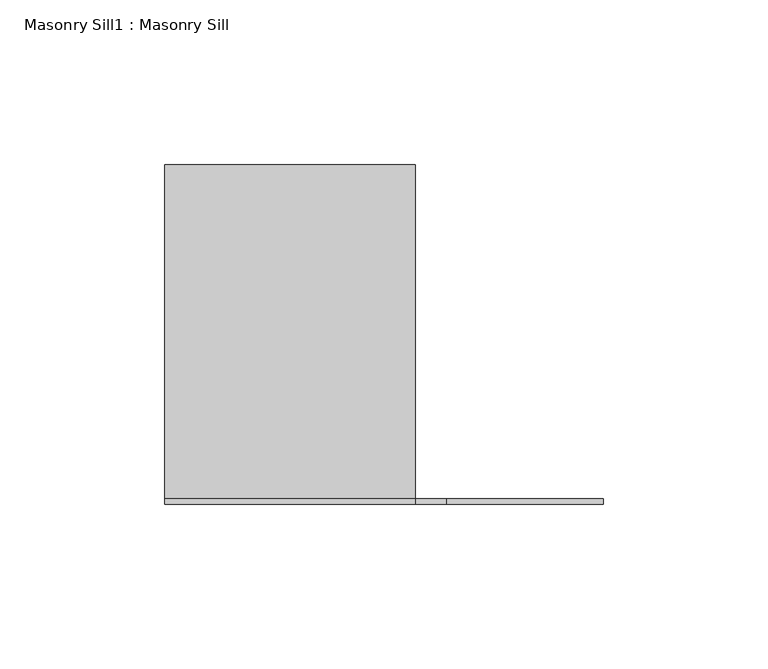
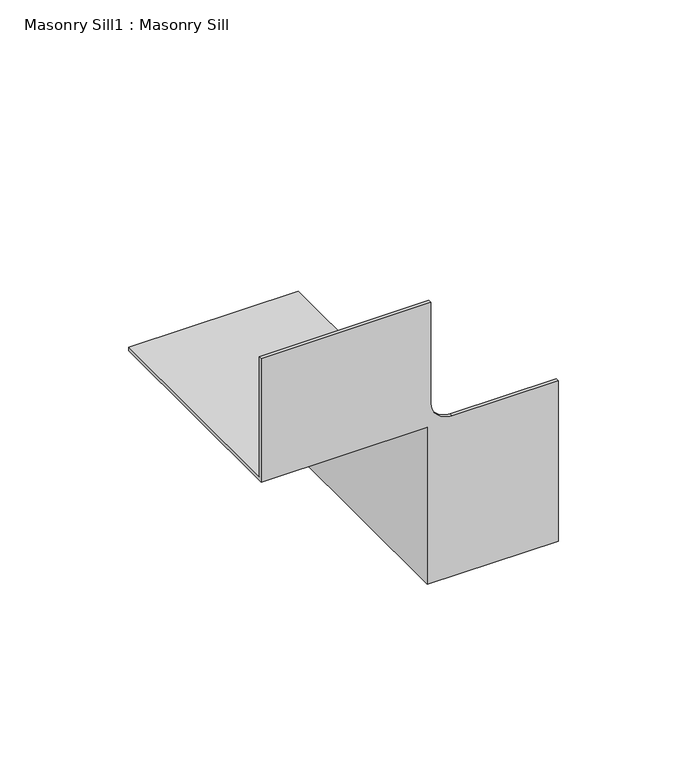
"""IFC4 building model written with IfcOpenShell, lengths in millimetres: proxy geometry, Masonry Sill1 : Masonry Sill."""

from ifc_helpers import new_model, si_unit, frame, origin, place, context, project, spatial, polyline, circle_curve, source, transform, mapped, element, save
from ifc_brep_helpers import plane_surface, revolved_surface, advanced_brep


def masonry_sill1_masonry_sill_fe5a3651(model_context):
    return source(origin(), model_context, "Body", "AdvancedBrep", [
        advanced_brep(
        [(26781.2726773, 732.4066297, 304.8), (26857.4726773, 732.4066297, 304.8), (26857.4726773, 732.4066297, 228.6), (26855.8851773, 732.4066297, 228.6), (26855.8851773, 732.4066297, 303.2125), (26781.2726773, 732.4066297, 303.2125), (26781.2726773, 630.8066297, 304.8), (26857.4726773, 630.8066297, 304.8), (26857.4726773, 630.8066297, 228.6), (26914.6226773, 630.8066297, 228.6), (26914.6226773, 629.2191297, 228.6), (26855.8851773, 629.2191297, 228.6), (26855.8851773, 629.2191297, 303.2125), (26781.2726773, 629.2191297, 303.2125), (26781.2726773, 629.2191297, 361.95), (26781.2726773, 630.8066297, 361.95), (26914.6226773, 629.2191297, 304.8), (26866.9976773, 629.2191297, 304.8), (26857.4726773, 629.2191297, 314.325), (26857.4726773, 629.2191297, 361.95), (26857.4726773, 630.8066297, 361.95), (26857.4726773, 630.8066297, 314.325), (26866.9976773, 630.8066297, 304.8), (26914.6226773, 630.8066297, 304.8)],
        [
            (0, 1),
            (1, 2),
            (2, 3),
            (3, 4),
            (4, 5),
            (5, 0),
            (0, 6),
            (6, 7),
            (7, 1),
            (7, 8),
            (8, 2),
            (8, 9),
            (9, 10),
            (10, 11),
            (11, 3),
            (11, 12),
            (12, 4),
            (12, 13),
            (13, 5),
            (13, 14),
            (14, 15),
            (15, 6),
            (10, 16),
            (16, 17),
            (17, 18, circle_curve(frame((26866.9976773, 629.2191297, 314.325), z_axis=(0.0, 1.0, 0.0), x_axis=(1.0, 0.0, 0.0)), 9.525)),
            (18, 19),
            (19, 14),
            (15, 20),
            (20, 21),
            (21, 22, circle_curve(frame((26866.9976773, 630.8066297, 314.325), z_axis=(0.0, -1.0, 0.0), x_axis=(1.0, 0.0, 0.0)), 9.525)),
            (22, 23),
            (23, 9),
            (23, 16),
            (22, 17),
            (21, 18),
            (20, 19),
        ],
        [
            plane_surface(frame((26857.4726773, 732.4066297, 304.8), z_axis=(0.0, 1.0, 0.0), x_axis=(1.0, 0.0, 0.0))),
            plane_surface(frame((26781.2726773, 732.4066297, 304.8), z_axis=(0.0, 0.0, 1.0), x_axis=(0.0, -1.0, 0.0))),
            plane_surface(frame((26857.4726773, 732.4066297, 304.8), z_axis=(1.0, 0.0, 0.0), x_axis=(0.0, -1.0, 0.0))),
            plane_surface(frame((26857.4726773, 732.4066297, 228.6), z_axis=(0.0, 0.0, -1.0), x_axis=(0.0, -1.0, 0.0))),
            plane_surface(frame((26855.8851773, 732.4066297, 228.6), z_axis=(-1.0, 0.0, 0.0), x_axis=(0.0, -1.0, 0.0))),
            plane_surface(frame((26855.8851773, 732.4066297, 303.2125), z_axis=(0.0, 0.0, -1.0), x_axis=(0.0, -1.0, 0.0))),
            plane_surface(frame((26781.2726773, 732.4066297, 303.2125), z_axis=(-1.0, 0.0, 0.0), x_axis=(0.0, -1.0, 0.0))),
            plane_surface(frame((26781.2726773, 629.2191297, 303.2125), z_axis=(0.0, -1.0, 0.0), x_axis=(0.0, 0.0, -1.0))),
            plane_surface(frame((26781.2726773, 630.8066297, 303.2125), z_axis=(0.0, 1.0, 0.0), x_axis=(0.0, 0.0, 1.0))),
            plane_surface(frame((26914.6226773, 629.2191297, 228.6), z_axis=(1.0, 0.0, 0.0), x_axis=(0.0, 1.0, 0.0))),
            plane_surface(frame((26914.6226773, 629.2191297, 304.8), z_axis=(0.0, 0.0, 1.0), x_axis=(0.0, 1.0, 0.0))),
            revolved_surface(polyline([(26876.522677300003, 630.8066297, 314.325), (26876.522677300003, 629.2191297, 314.325)]), (26866.9976773, 630.8066297, 314.325), (0.0, 1.0, 0.0)),
            plane_surface(frame((26857.4726773, 629.2191297, 314.325), z_axis=(1.0, 0.0, 0.0), x_axis=(0.0, 1.0, 0.0))),
            plane_surface(frame((26857.4726773, 629.2191297, 361.95), z_axis=(0.0, 0.0, 1.0), x_axis=(0.0, 1.0, 0.0))),
        ],
        [
            (0, [[1, 2, 3, 4, 5, 6]]),
            (1, [[-1, 7, 8, 9]]),
            (2, [[-2, -9, 10, 11]]),
            (3, [[-3, -11, 12, 13, 14, 15]]),
            (4, [[-4, -15, 16, 17]]),
            (5, [[-5, -17, 18, 19]]),
            (6, [[-6, -19, 20, 21, 22, -7]]),
            (7, [[-20, -18, -16, -14, 23, 24, 25, 26, 27]]),
            (8, [[28, 29, 30, 31, 32, -12, -10, -8, -22]]),
            (9, [[-23, -13, -32, 33]]),
            (10, [[-24, -33, -31, 34]]),
            (11, [[-25, -34, -30, 35]]),
            (12, [[-26, -35, -29, 36]]),
            (13, [[-27, -36, -28, -21]]),
        ],
    ),
    ])


if __name__ == "__main__":
    model = new_model("IFC4")
    model_context = context("Model", 3, world=origin())
    ifc_project = project(units=[si_unit("LENGTHUNIT", "METRE", prefix="MILLI")], contexts=[model_context])
    site = spatial("IfcSite", under=ifc_project)
    building = spatial("IfcBuilding", under=site)
    placement = place(None, origin())
    masonry_sill1_masonry_sill_shape = masonry_sill1_masonry_sill_fe5a3651(model_context)
    element("IfcBuildingElementProxy", 1, Name="Masonry Sill1 : Masonry Sill", ObjectType="Masonry Sill1 : Masonry Sill", at=placement, inside=building, context=model_context, shape_type="MappedRepresentation", body=[
        mapped(masonry_sill1_masonry_sill_shape, transform((0.0, 0.0, 0.0), x_axis=(1.0, 0.0, 0.0), y_axis=(0.0, 1.0, 0.0), z_axis=(0.0, 0.0, 1.0))),
    ])
    save(model, "model.ifc")
